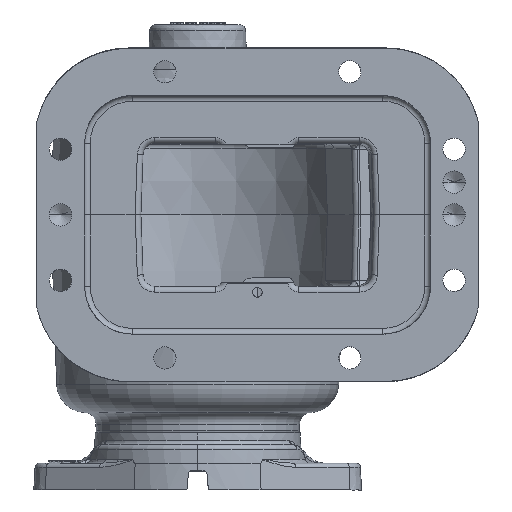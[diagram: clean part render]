
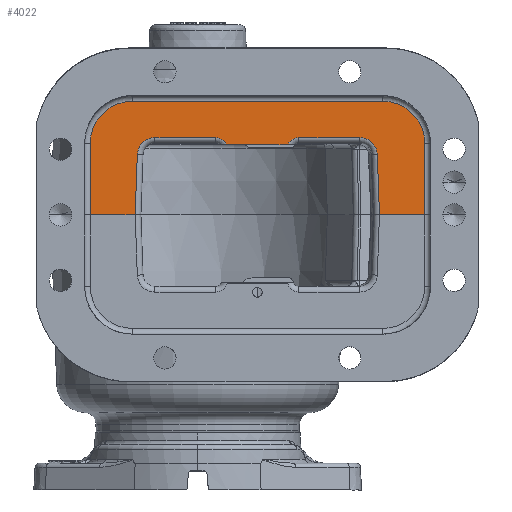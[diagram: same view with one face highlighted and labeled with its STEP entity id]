
A CAD part, front view. The second image highlights one B-rep face of the part: STEP entity #4022.
In plain terms, the highlighted planar face has unit normal (0, -1, 0).
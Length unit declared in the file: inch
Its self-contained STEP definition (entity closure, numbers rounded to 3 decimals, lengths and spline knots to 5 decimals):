
#1100 = VECTOR ( 'NONE', #38381, 39.37008 ) ;
#1247 = ORIENTED_EDGE ( 'NONE', *, *, #65637, .F. ) ;
#2117 = CARTESIAN_POINT ( 'NONE',  ( -2.38, -4.3, -1.37 ) ) ;
#4022 = ADVANCED_FACE ( 'NONE', ( #53390 ), #78890, .F. ) ;
#5562 = DIRECTION ( 'NONE',  ( 0., -1., 0. ) ) ;
#6259 = LINE ( 'NONE', #75704, #37968 ) ;
#6498 = ORIENTED_EDGE ( 'NONE', *, *, #20768, .F. ) ;
#7377 = ORIENTED_EDGE ( 'NONE', *, *, #19409, .F. ) ;
#7537 = VERTEX_POINT ( 'NONE', #48845 ) ;
#8154 = DIRECTION ( 'NONE',  ( 0., 0., -1. ) ) ;
#8458 = LINE ( 'NONE', #63098, #65889 ) ;
#8783 = DIRECTION ( 'NONE',  ( 0., -1., 0. ) ) ;
#10384 = CARTESIAN_POINT ( 'NONE',  ( -1.26291, -4.3, 3.76597 ) ) ;
#10471 = LINE ( 'NONE', #55410, #13485 ) ;
#10974 = VERTEX_POINT ( 'NONE', #94259 ) ;
#11862 = VERTEX_POINT ( 'NONE', #22795 ) ;
#12418 = DIRECTION ( 'NONE',  ( -1., 0., 0. ) ) ;
#12646 = VERTEX_POINT ( 'NONE', #41566 ) ;
#13035 = EDGE_LOOP ( 'NONE', ( #79327, #55004, #72043, #47789, #1247, #46857, #52590, #71635, #21539, #31689, #6498, #39546, #93679, #89625, #49250, #7377 ) ) ;
#13281 = CARTESIAN_POINT ( 'NONE',  ( -1.62, -4.3, -0.8962 ) ) ;
#13485 = VECTOR ( 'NONE', #88562, 39.37008 ) ;
#14929 = EDGE_CURVE ( 'NONE', #80825, #55953, #20715, .T. ) ;
#15182 = EDGE_CURVE ( 'NONE', #76227, #11862, #54923, .T. ) ;
#15433 = DIRECTION ( 'NONE',  ( 0., 1., 0. ) ) ;
#16257 = CARTESIAN_POINT ( 'NONE',  ( -1.47, -4.3, 1.89503 ) ) ;
#16511 = CARTESIAN_POINT ( 'NONE',  ( 0., -4.3, 3.81007 ) ) ;
#16798 = VECTOR ( 'NONE', #61777, 39.37008 ) ;
#18273 = EDGE_CURVE ( 'NONE', #55974, #96941, #87713, .T. ) ;
#19051 = AXIS2_PLACEMENT_3D ( 'NONE', #61881, #15433, #46546 ) ;
#19277 = LINE ( 'NONE', #50407, #24959 ) ;
#19409 = EDGE_CURVE ( 'NONE', #26823, #7537, #96520, .T. ) ;
#20715 = CIRCLE ( 'NONE', #19051, 0.88 ) ;
#20768 = EDGE_CURVE ( 'NONE', #55974, #80825, #6259, .T. ) ;
#21539 = ORIENTED_EDGE ( 'NONE', *, *, #98199, .F. ) ;
#21957 = AXIS2_PLACEMENT_3D ( 'NONE', #63080, #94224, #45695 ) ;
#22795 = CARTESIAN_POINT ( 'NONE',  ( -1.62, -4.3, 3.3962 ) ) ;
#23285 = CARTESIAN_POINT ( 'NONE',  ( -1.5, -4.3, -2.25 ) ) ;
#23473 = DIRECTION ( 'NONE',  ( 0., -1., 0. ) ) ;
#24071 = EDGE_CURVE ( 'NONE', #53418, #46947, #45414, .T. ) ;
#24907 = EDGE_CURVE ( 'NONE', #12646, #96941, #78486, .T. ) ;
#24959 = VECTOR ( 'NONE', #41754, 39.37008 ) ;
#25095 = DIRECTION ( 'NONE',  ( 0., 0., -1. ) ) ;
#26126 = CARTESIAN_POINT ( 'NONE',  ( -1.62, -4.3, -0.8962 ) ) ;
#26412 = AXIS2_PLACEMENT_3D ( 'NONE', #81535, #42225, #36569 ) ;
#26554 = DIRECTION ( 'NONE',  ( 0., -1., 0. ) ) ;
#26823 = VERTEX_POINT ( 'NONE', #51876 ) ;
#31689 = ORIENTED_EDGE ( 'NONE', *, *, #14929, .F. ) ;
#34489 = CIRCLE ( 'NONE', #26412, 0.88 ) ;
#35205 = DIRECTION ( 'NONE',  ( 0., 0., -1. ) ) ;
#36569 = DIRECTION ( 'NONE',  ( 0., 0., -1. ) ) ;
#36680 = DIRECTION ( 'NONE',  ( 0., 0., -1. ) ) ;
#37968 = VECTOR ( 'NONE', #12418, 39.37008 ) ;
#38381 = DIRECTION ( 'NONE',  ( 0., 0., 1. ) ) ;
#38752 = CARTESIAN_POINT ( 'NONE',  ( -1.25, -4.3, 3.3962 ) ) ;
#39043 = EDGE_CURVE ( 'NONE', #88324, #26823, #19277, .T. ) ;
#39546 = ORIENTED_EDGE ( 'NONE', *, *, #18273, .T. ) ;
#41566 = CARTESIAN_POINT ( 'NONE',  ( -1.26291, -4.3, -1.26597 ) ) ;
#41754 = DIRECTION ( 'NONE',  ( 0., 0., -1. ) ) ;
#42225 = DIRECTION ( 'NONE',  ( 0., 1., 0. ) ) ;
#42367 = CARTESIAN_POINT ( 'NONE',  ( -1.38, -4.3, 2.11752 ) ) ;
#43342 = CARTESIAN_POINT ( 'NONE',  ( -1.25, -4.3, -0.8962 ) ) ;
#44924 = LINE ( 'NONE', #13281, #87231 ) ;
#45414 = LINE ( 'NONE', #92412, #16798 ) ;
#45695 = DIRECTION ( 'NONE',  ( 0., 0., -1. ) ) ;
#46117 = CIRCLE ( 'NONE', #77191, 0.37 ) ;
#46216 = CIRCLE ( 'NONE', #98408, 0.24 ) ;
#46546 = DIRECTION ( 'NONE',  ( 0., 0., -1. ) ) ;
#46857 = ORIENTED_EDGE ( 'NONE', *, *, #90775, .T. ) ;
#46947 = VERTEX_POINT ( 'NONE', #54921 ) ;
#47658 = EDGE_CURVE ( 'NONE', #78754, #53418, #34489, .T. ) ;
#47789 = ORIENTED_EDGE ( 'NONE', *, *, #15182, .F. ) ;
#48845 = CARTESIAN_POINT ( 'NONE',  ( -1.62, -4.3, 0.38248 ) ) ;
#49250 = ORIENTED_EDGE ( 'NONE', *, *, #86751, .F. ) ;
#50407 = CARTESIAN_POINT ( 'NONE',  ( -1.47, -4.3, -3.37 ) ) ;
#51186 = EDGE_CURVE ( 'NONE', #10974, #88324, #46216, .T. ) ;
#51876 = CARTESIAN_POINT ( 'NONE',  ( -1.47, -4.3, 0.60497 ) ) ;
#52590 = ORIENTED_EDGE ( 'NONE', *, *, #24071, .F. ) ;
#52701 = LINE ( 'NONE', #84846, #1100 ) ;
#53390 = FACE_OUTER_BOUND ( 'NONE', #13035, .T. ) ;
#53418 = VERTEX_POINT ( 'NONE', #79334 ) ;
#54691 = DIRECTION ( 'NONE',  ( 0., 0., 1. ) ) ;
#54921 = CARTESIAN_POINT ( 'NONE',  ( 0., -4.3, 4.76 ) ) ;
#54923 = CIRCLE ( 'NONE', #94073, 0.37 ) ;
#55004 = ORIENTED_EDGE ( 'NONE', *, *, #51186, .F. ) ;
#55410 = CARTESIAN_POINT ( 'NONE',  ( -1.26291, -4.3, 3.76597 ) ) ;
#55953 = VERTEX_POINT ( 'NONE', #2117 ) ;
#55974 = VERTEX_POINT ( 'NONE', #71422 ) ;
#61777 = DIRECTION ( 'NONE',  ( 1., 0., 0. ) ) ;
#61838 = CARTESIAN_POINT ( 'NONE',  ( -2.38, -4.3, 3.88 ) ) ;
#61881 = CARTESIAN_POINT ( 'NONE',  ( -1.5, -4.3, -1.37 ) ) ;
#62750 = DIRECTION ( 'NONE',  ( 0., 0., 1. ) ) ;
#62865 = LINE ( 'NONE', #61838, #90716 ) ;
#63080 = CARTESIAN_POINT ( 'NONE',  ( -3.5, -4.3, -3.37 ) ) ;
#63098 = CARTESIAN_POINT ( 'NONE',  ( -1.62, -4.3, 2.11752 ) ) ;
#65637 = EDGE_CURVE ( 'NONE', #75168, #76227, #10471, .T. ) ;
#65889 = VECTOR ( 'NONE', #71224, 39.37008 ) ;
#66092 = EDGE_CURVE ( 'NONE', #78611, #12646, #46117, .T. ) ;
#67714 = EDGE_CURVE ( 'NONE', #11862, #10974, #8458, .T. ) ;
#70374 = CARTESIAN_POINT ( 'NONE',  ( 0., -4.3, -3.37 ) ) ;
#70821 = DIRECTION ( 'NONE',  ( 0.999, 0., -0.035 ) ) ;
#71224 = DIRECTION ( 'NONE',  ( 0., 0., -1. ) ) ;
#71422 = CARTESIAN_POINT ( 'NONE',  ( 0., -4.3, -2.25 ) ) ;
#71635 = ORIENTED_EDGE ( 'NONE', *, *, #47658, .F. ) ;
#72043 = ORIENTED_EDGE ( 'NONE', *, *, #67714, .F. ) ;
#75168 = VERTEX_POINT ( 'NONE', #16511 ) ;
#75571 = DIRECTION ( 'NONE',  ( 0., 0., -1. ) ) ;
#75704 = CARTESIAN_POINT ( 'NONE',  ( -1.5, -4.3, -2.25 ) ) ;
#76227 = VERTEX_POINT ( 'NONE', #10384 ) ;
#77191 = AXIS2_PLACEMENT_3D ( 'NONE', #43342, #5562, #36680 ) ;
#78486 = LINE ( 'NONE', #87155, #88575 ) ;
#78611 = VERTEX_POINT ( 'NONE', #26126 ) ;
#78754 = VERTEX_POINT ( 'NONE', #81754 ) ;
#78890 = PLANE ( 'NONE',  #21957 ) ;
#79327 = ORIENTED_EDGE ( 'NONE', *, *, #39043, .F. ) ;
#79334 = CARTESIAN_POINT ( 'NONE',  ( -1.5, -4.3, 4.76 ) ) ;
#80825 = VERTEX_POINT ( 'NONE', #23285 ) ;
#81535 = CARTESIAN_POINT ( 'NONE',  ( -1.5, -4.3, 3.88 ) ) ;
#81754 = CARTESIAN_POINT ( 'NONE',  ( -2.38, -4.3, 3.88 ) ) ;
#84846 = CARTESIAN_POINT ( 'NONE',  ( 0., -4.3, -3.37 ) ) ;
#85074 = VECTOR ( 'NONE', #62750, 39.37008 ) ;
#86371 = CARTESIAN_POINT ( 'NONE',  ( -1.38, -4.3, 0.38248 ) ) ;
#86751 = EDGE_CURVE ( 'NONE', #7537, #78611, #44924, .T. ) ;
#87155 = CARTESIAN_POINT ( 'NONE',  ( -0.00419, -4.3, -1.30993 ) ) ;
#87231 = VECTOR ( 'NONE', #75571, 39.37008 ) ;
#87713 = LINE ( 'NONE', #70374, #85074 ) ;
#88324 = VERTEX_POINT ( 'NONE', #16257 ) ;
#88562 = DIRECTION ( 'NONE',  ( -0.999, 0., -0.035 ) ) ;
#88575 = VECTOR ( 'NONE', #70821, 39.37008 ) ;
#89625 = ORIENTED_EDGE ( 'NONE', *, *, #66092, .F. ) ;
#90040 = AXIS2_PLACEMENT_3D ( 'NONE', #86371, #8783, #25095 ) ;
#90716 = VECTOR ( 'NONE', #54691, 39.37008 ) ;
#90775 = EDGE_CURVE ( 'NONE', #75168, #46947, #52701, .T. ) ;
#92412 = CARTESIAN_POINT ( 'NONE',  ( 0., -4.3, 4.76 ) ) ;
#93679 = ORIENTED_EDGE ( 'NONE', *, *, #24907, .F. ) ;
#94073 = AXIS2_PLACEMENT_3D ( 'NONE', #38752, #23473, #8154 ) ;
#94224 = DIRECTION ( 'NONE',  ( 0., 1., 0. ) ) ;
#94259 = CARTESIAN_POINT ( 'NONE',  ( -1.62, -4.3, 2.11752 ) ) ;
#95429 = CARTESIAN_POINT ( 'NONE',  ( 0., -4.3, -1.31007 ) ) ;
#96520 = CIRCLE ( 'NONE', #90040, 0.24 ) ;
#96941 = VERTEX_POINT ( 'NONE', #95429 ) ;
#98199 = EDGE_CURVE ( 'NONE', #55953, #78754, #62865, .T. ) ;
#98408 = AXIS2_PLACEMENT_3D ( 'NONE', #42367, #26554, #35205 ) ;
